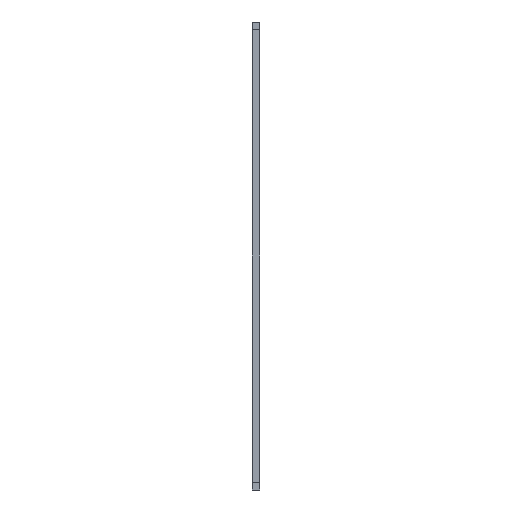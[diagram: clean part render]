
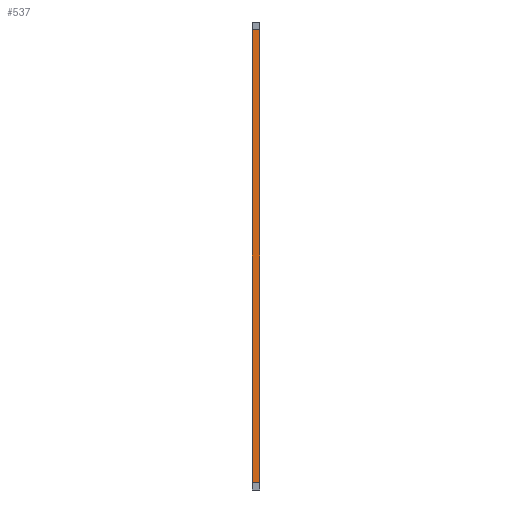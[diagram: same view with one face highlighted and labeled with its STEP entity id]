
A CAD part, left-side view. The second image highlights one B-rep face of the part: STEP entity #537.
In plain terms, the highlighted planar face has unit normal (-1, 0, 0).
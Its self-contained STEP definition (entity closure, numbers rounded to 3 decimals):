
#30 = ORIENTED_EDGE ( 'NONE', *, *, #710, .T. ) ;
#40 = CARTESIAN_POINT ( 'NONE',  ( -30., 3., -87. ) ) ;
#54 = CARTESIAN_POINT ( 'NONE',  ( -30., 0., -87. ) ) ;
#60 = AXIS2_PLACEMENT_3D ( 'NONE', #163, #390, #766 ) ;
#75 = DIRECTION ( 'NONE',  ( 0., 1., 0. ) ) ;
#99 = EDGE_CURVE ( 'NONE', #742, #734, #359, .T. ) ;
#105 = ORIENTED_EDGE ( 'NONE', *, *, #221, .T. ) ;
#134 = CARTESIAN_POINT ( 'NONE',  ( -30., 3., 87. ) ) ;
#139 = LINE ( 'NONE', #362, #527 ) ;
#150 = VECTOR ( 'NONE', #708, 1000. ) ;
#163 = CARTESIAN_POINT ( 'NONE',  ( -30., 3., -90. ) ) ;
#191 = CARTESIAN_POINT ( 'NONE',  ( -30., 0., 87. ) ) ;
#221 = EDGE_CURVE ( 'NONE', #767, #317, #747, .T. ) ;
#317 = VERTEX_POINT ( 'NONE', #134 ) ;
#336 = EDGE_CURVE ( 'NONE', #734, #317, #139, .T. ) ;
#359 = LINE ( 'NONE', #544, #704 ) ;
#362 = CARTESIAN_POINT ( 'NONE',  ( -30., 3., -90. ) ) ;
#384 = EDGE_LOOP ( 'NONE', ( #30, #105, #749, #618 ) ) ;
#390 = DIRECTION ( 'NONE',  ( 1., 0., 0. ) ) ;
#449 = PLANE ( 'NONE',  #60 ) ;
#485 = DIRECTION ( 'NONE',  ( 0., 0., 1. ) ) ;
#527 = VECTOR ( 'NONE', #485, 1000. ) ;
#537 = ADVANCED_FACE ( 'NONE', ( #695 ), #449, .F. ) ;
#544 = CARTESIAN_POINT ( 'NONE',  ( -30., 0., -87. ) ) ;
#618 = ORIENTED_EDGE ( 'NONE', *, *, #99, .F. ) ;
#682 = CARTESIAN_POINT ( 'NONE',  ( -30., 0., 87. ) ) ;
#695 = FACE_OUTER_BOUND ( 'NONE', #384, .T. ) ;
#703 = CARTESIAN_POINT ( 'NONE',  ( -30., 0., -90. ) ) ;
#704 = VECTOR ( 'NONE', #787, 1000. ) ;
#708 = DIRECTION ( 'NONE',  ( 0., 0., 1. ) ) ;
#710 = EDGE_CURVE ( 'NONE', #742, #767, #779, .T. ) ;
#734 = VERTEX_POINT ( 'NONE', #40 ) ;
#742 = VERTEX_POINT ( 'NONE', #54 ) ;
#744 = VECTOR ( 'NONE', #75, 1000. ) ;
#747 = LINE ( 'NONE', #682, #744 ) ;
#749 = ORIENTED_EDGE ( 'NONE', *, *, #336, .F. ) ;
#766 = DIRECTION ( 'NONE',  ( 0., 0., -1. ) ) ;
#767 = VERTEX_POINT ( 'NONE', #191 ) ;
#779 = LINE ( 'NONE', #703, #150 ) ;
#787 = DIRECTION ( 'NONE',  ( 0., 1., 0. ) ) ;
